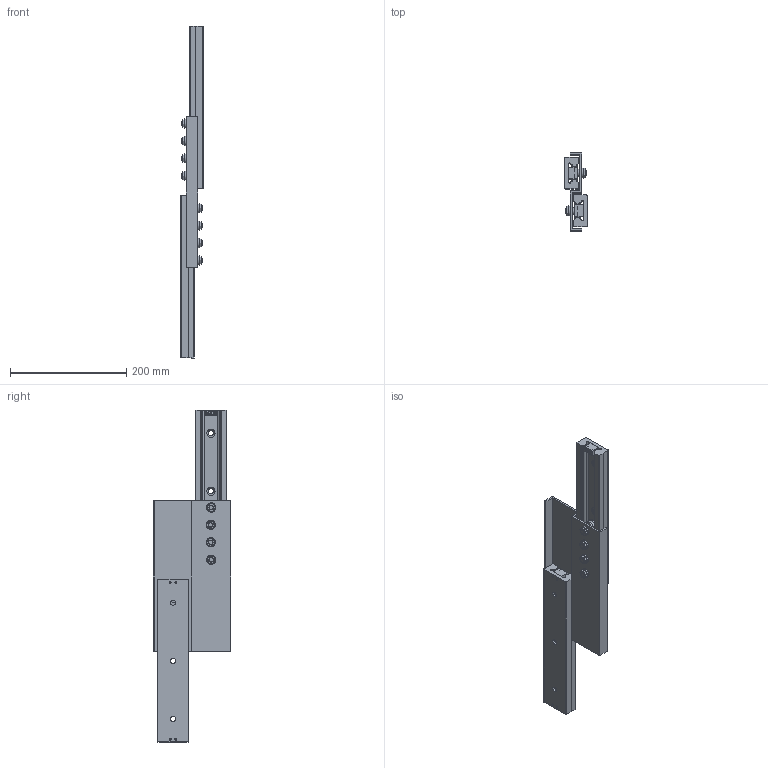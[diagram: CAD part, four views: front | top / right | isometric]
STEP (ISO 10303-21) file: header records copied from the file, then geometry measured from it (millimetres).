
FILE_DESCRIPTION (( 'STEP AP214' ), '1' );
FILE_NAME ('LSIM55DV.STEP', '2021-06-13T23:46:47', ( '' ), ( '' ), 'SwSTEP 2.0', 'SolidWorks 2019', '' );
FILE_SCHEMA (( 'AUTOMOTIVE_DESIGN' ));
Length unit declared in the file: millimetre
Products named in the file (4): LSIM55ストッパー; LSIM55DVリテーナ; LSIM55DVレール; LSIM55DV
Assembly tree (7 placements, depth 2):
  LSIM55DV
    LSIM55DVレール  x2
    LSIM55DVリテーナ
    LSIM55ストッパー  x4
Bounding box: 38.4 x 134 x 572 mm (x, y, z)
Volume: 666218.1 mm3; surface area: 237081.6 mm2
Topology: 7 solids, 7 shells, 482 faces, 1070 edges, 680 vertices
Faces by surface type: plane 254, cylinder 116, cone 104, torus 8
Full cylindrical faces by diameter (mm): 3.3 x8, 4 x8, 7.5 x8, 8 x16, 9 x6, 12.3 x8, 14 x6, 16 x8, 24 x16
Entity records: 9487 total; most frequent: CARTESIAN_POINT 2453, DIRECTION 1393, ORIENTED_EDGE 1290, EDGE_CURVE 645, AXIS2_PLACEMENT_3D 594, EDGE_LOOP 473, VERTEX_POINT 438, FACE_OUTER_BOUND 400
